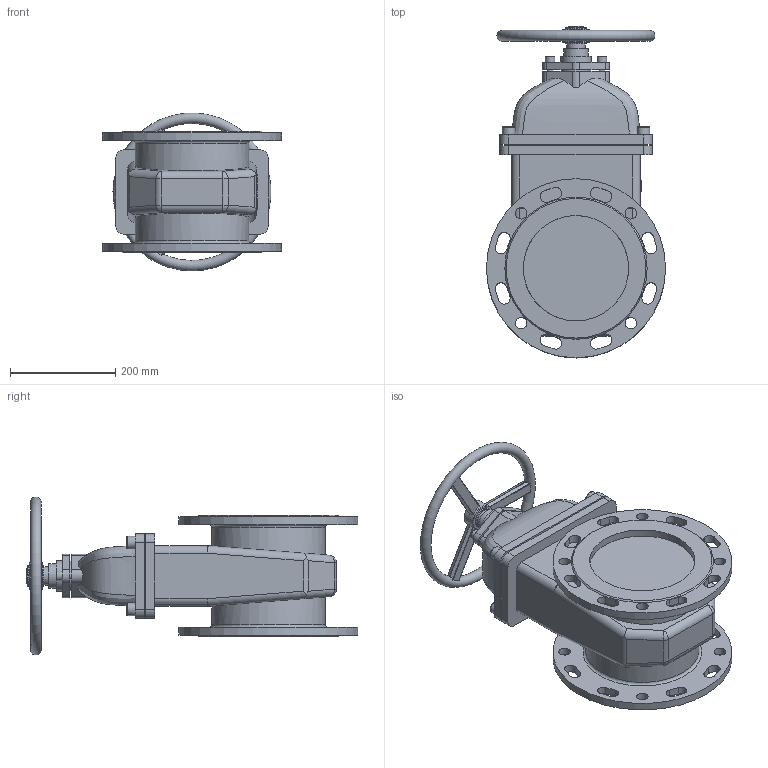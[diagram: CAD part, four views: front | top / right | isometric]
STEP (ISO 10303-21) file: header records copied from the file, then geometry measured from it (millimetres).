
FILE_DESCRIPTION(('STEP AP242'), '1');
FILE_NAME('GVWN1414N-2W-F-S blue Çàäâèæêà êëèíîâàÿ ñ íåâèäâèæíûì øòîêîì DN.ru Äó200 Ðó10-16', '', ('UNSPECIFIED'), ('UNSPECIFIED'), 'C3D Converter', 'C3D Toolkit', '');
FILE_SCHEMA(('AP242_MANAGED_MODEL_BASED_3D_ENGINEERING_MIM_LF { 1 0 10303 442 1 1 4 }'));
Length unit declared in the file: millimetre
Products named in the file (1): GVWN1414N-2W-F-S blue
Bounding box: 340 x 630 x 299.74 mm (x, y, z)
Volume: 18312366.3 mm3; surface area: 879097.6 mm2
Topology: 1 solids, 1 shells, 403 faces, 1054 edges, 675 vertices
Faces by surface type: plane 183, cylinder 120, bspline 38, extrusion 27, torus 19, cone 8, sphere 8
Full cylindrical faces by diameter (mm): 12 x2, 16 x4, 18 x2, 22 x8, 24 x4, 28.75 x1, 34.5 x1, 40 x2, 46 x1, 50 x1, 57.5 x2, 200 x2, 215.625 x2, 340 x2
Entity records: 20754 total; most frequent: CARTESIAN_POINT 10827, ORIENTED_EDGE 1962, DIRECTION 1608, EDGE_CURVE 981, VERTEX_POINT 666, EDGE_LOOP 553, AXIS2_PLACEMENT_3D 549, VECTOR 510
